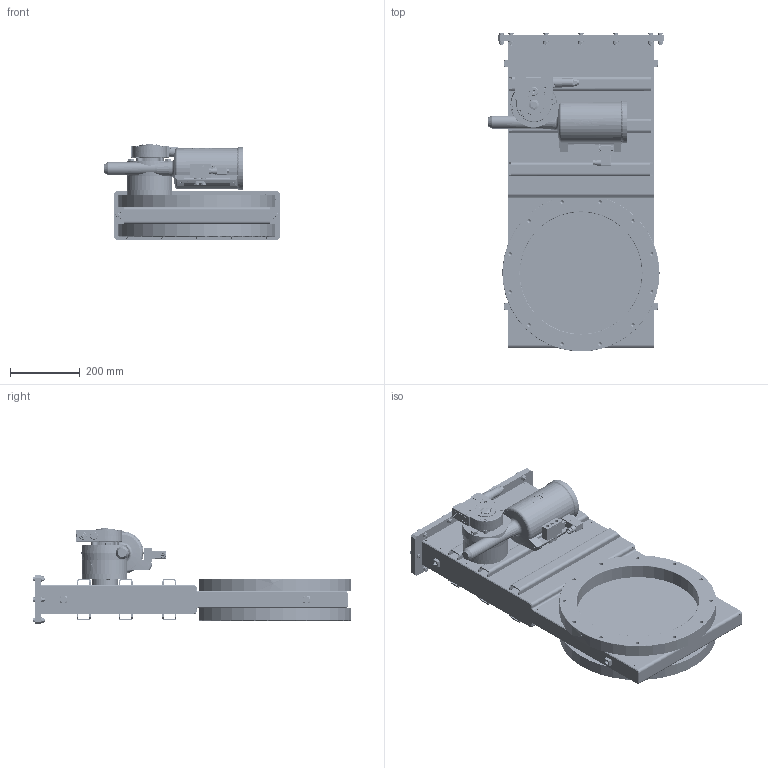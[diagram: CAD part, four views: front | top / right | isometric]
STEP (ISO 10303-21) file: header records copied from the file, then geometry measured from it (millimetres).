
FILE_DESCRIPTION(/* description */ (''),/* implementation_level */ '2;1');
FILE_NAME(/* name */ '1018952395_203.stp',/* time_stamp */ '2019-11-22T15:51:15+01:00',/* author */ (''),/* organization */ (''),/* preprocessor_version */ 'ST-DEVELOPER v16',/* originating_system */ 'SIEMENS PLM Software NX 11.0',/* authorisation */ '');
FILE_SCHEMA (('AP203_CONFIGURATION_CONTROLLED_3D_DESIGN_OF_MECHANICAL_PARTS_AND_ASSEMBLIES_MIM_LF { 1 0 10303 403 2 1 2}'));
Products named in the file (48): 220685; 220664; 220681; 220678.1; 467863; 467864; N-7501-501_1.2; N-7501-501_2.2; 49321-01.6; 220683_1.1; 220683_2.1; 220678_2.1; 220678_1.1; n-7016-010; N-5062-003.1; N-7015-015.2; n-6203-105.1; 43316-03.1; n-6160-412; N-5021-552.1; 215241.3; 326349.1; 255131.3_26934ID; 255131.3_26932ID; N-6029-112.1; n-8504-002; N-6029-102.1; 60538-01_2.1; 60539-01.1; N-8504-102.3; 60538-01.1; 60532-01.3; N-6016-123.1; N-6289-133.2; 93516-01.1; n-5021-498.1; n-6131-414; n-6053-412.2; 87335-01.1; n-8501-300_NX-ARRAGMNTArrangement 1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
Assembly tree (109 placements, depth 5):
  454493
    255150.9
      255131.3_26932ID
      255131.3_26934ID
      326349.1  x4
      215241.3
      220684.7
        220678_1.1
        220678_2.1
        220683_2.1
        220683_1.1
        234265.2_NX-ARRAGMNTGrundgehäuse "A" für mech. Bearbeitung
          220678.1  x4
          220681
          220664
          220685
    87335-01.1
    83582-r1_3.5_NX-ARRAGMNTZUSAMMENST1
      N-5021-552.1  x2
      72501-R1_2.5
        49321-01.6
      n-6160-412  x2
      43316-03.1
      n-6203-105.1
    83488-r1.4_NX-ARRAGMNTKONFIG1
      N-7501-501.4_NX-ARRAGMNTKONFIG1
        N-7501-501_2.2
        N-7501-501_1.2
      N-7015-015.2  x2
      N-5062-003.1  x2
      n-7016-010  x2
      n-8501-300_NX-ARRAGMNTArrangement 1
        467864
        467863
    n-6053-412.2  x12
    n-6131-414  x24
    n-5021-498.1  x12
    93516-01.1
    N-6289-133.2
    N-6016-123.1  x4
    60532-01.3  x2
    60538-01.1
    N-8504-102.3
    60539-01.1
    60538-01_2.1
    N-6029-102.1  x2
    n-8504-002
    N-6029-112.1  x2
Bounding box: 503.25 x 912.39 x 273.13 mm (x, y, z)
Volume: 14891010.9 mm3; surface area: 3181002.3 mm2
Topology: 142 solids, 142 shells, 3144 faces, 7166 edges, 4612 vertices
Faces by surface type: plane 1658, cylinder 948, cone 298, bspline 164, torus 41, extrusion 25, sphere 10
Full cylindrical faces by diameter (mm): 1.5 x7, 1.66 x7, 1.8 x9, 2 x24, 2.2 x2, 2.25 x20, 2.45 x20, 2.55 x4, 2.657 x1, 2.9 x2, 3 x13, 3.025 x8, 3.07 x12, 3.2 x8, 3.251 x1, 3.26 x4, 3.28 x8, 3.3 x12, 3.6 x2, 3.85 x4, 4 x11, 4.2 x2, 4.4 x2, 4.55 x8, 4.9 x1, 5 x4, 5.09 x2, 5.5 x2, 5.6 x2, 5.85 x4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
Entity records: 74736 total; most frequent: CARTESIAN_POINT 18909, DIRECTION 9543, ORIENTED_EDGE 8542, EDGE_CURVE 4271, AXIS2_PLACEMENT_3D 3707, VERTEX_POINT 3063, EDGE_LOOP 2955, VECTOR 2129
